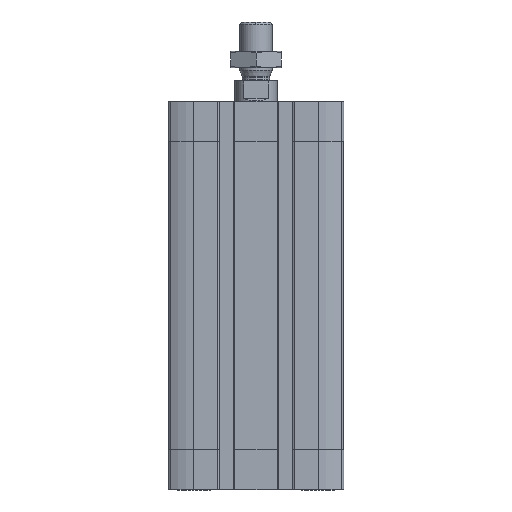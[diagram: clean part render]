
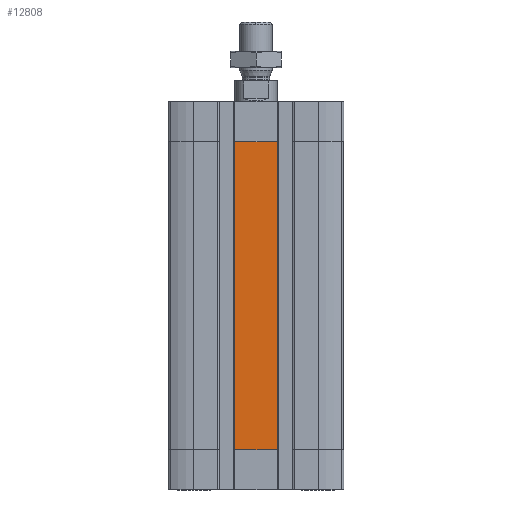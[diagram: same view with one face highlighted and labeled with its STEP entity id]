
A CAD part, front view. The second image highlights one B-rep face of the part: STEP entity #12808.
In plain terms, the highlighted planar face has unit normal (0, -1, 0).
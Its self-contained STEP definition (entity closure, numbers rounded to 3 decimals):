
#964 = ORIENTED_EDGE ( 'NONE', *, *, #4223, .T. ) ;
#1026 = ORIENTED_EDGE ( 'NONE', *, *, #3252, .T. ) ;
#1132 = CARTESIAN_POINT ( 'NONE',  ( -8., -32.5, -130. ) ) ;
#1437 = LINE ( 'NONE', #12872, #8397 ) ;
#1878 = CARTESIAN_POINT ( 'NONE',  ( -8., -32.5, -130. ) ) ;
#2075 = CARTESIAN_POINT ( 'NONE',  ( -8., -32.5, -130. ) ) ;
#2480 = VERTEX_POINT ( 'NONE', #12920 ) ;
#2552 = VECTOR ( 'NONE', #7149, 1000. ) ;
#2629 = ORIENTED_EDGE ( 'NONE', *, *, #5068, .T. ) ;
#2943 = LINE ( 'NONE', #14144, #2552 ) ;
#3128 = VECTOR ( 'NONE', #14548, 1000. ) ;
#3252 = EDGE_CURVE ( 'NONE', #2480, #14463, #12258, .T. ) ;
#3501 = EDGE_LOOP ( 'NONE', ( #4551, #2629, #964, #1026 ) ) ;
#3610 = PLANE ( 'NONE',  #5473 ) ;
#3895 = FACE_OUTER_BOUND ( 'NONE', #3501, .T. ) ;
#4123 = VERTEX_POINT ( 'NONE', #7546 ) ;
#4223 = EDGE_CURVE ( 'NONE', #4123, #2480, #1437, .T. ) ;
#4551 = ORIENTED_EDGE ( 'NONE', *, *, #5470, .T. ) ;
#4833 = DIRECTION ( 'NONE',  ( 0., 0., -1. ) ) ;
#5068 = EDGE_CURVE ( 'NONE', #10465, #4123, #2943, .T. ) ;
#5125 = CARTESIAN_POINT ( 'NONE',  ( 8., -32.5, -130. ) ) ;
#5470 = EDGE_CURVE ( 'NONE', #14463, #10465, #10295, .T. ) ;
#5473 = AXIS2_PLACEMENT_3D ( 'NONE', #1132, #12317, #4833 ) ;
#5835 = CARTESIAN_POINT ( 'NONE',  ( -8., -32.5, -130. ) ) ;
#6618 = DIRECTION ( 'NONE',  ( -1., 0., 0. ) ) ;
#7149 = DIRECTION ( 'NONE',  ( 0., 0., 1. ) ) ;
#7353 = VECTOR ( 'NONE', #14252, 1000. ) ;
#7546 = CARTESIAN_POINT ( 'NONE',  ( 8., -32.5, -15. ) ) ;
#8397 = VECTOR ( 'NONE', #6618, 1000. ) ;
#10295 = LINE ( 'NONE', #1878, #7353 ) ;
#10465 = VERTEX_POINT ( 'NONE', #5125 ) ;
#12258 = LINE ( 'NONE', #5835, #3128 ) ;
#12317 = DIRECTION ( 'NONE',  ( 0., -1., 0. ) ) ;
#12808 = ADVANCED_FACE ( 'NONE', ( #3895 ), #3610, .T. ) ;
#12872 = CARTESIAN_POINT ( 'NONE',  ( 0., -32.5, -15. ) ) ;
#12920 = CARTESIAN_POINT ( 'NONE',  ( -8., -32.5, -15. ) ) ;
#14144 = CARTESIAN_POINT ( 'NONE',  ( 8., -32.5, -130. ) ) ;
#14252 = DIRECTION ( 'NONE',  ( 1., 0., 0. ) ) ;
#14463 = VERTEX_POINT ( 'NONE', #2075 ) ;
#14548 = DIRECTION ( 'NONE',  ( 0., 0., -1. ) ) ;
